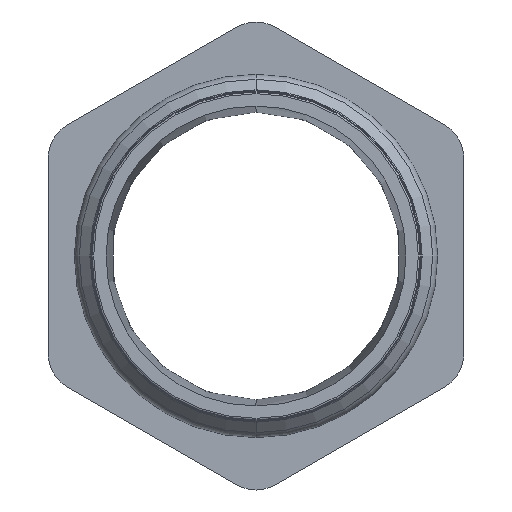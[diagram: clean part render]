
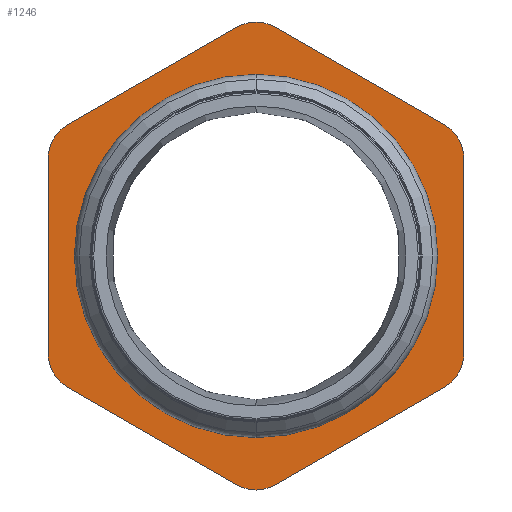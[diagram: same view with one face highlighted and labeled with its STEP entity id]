
A CAD part, left-side view. The second image highlights one B-rep face of the part: STEP entity #1246.
In plain terms, the highlighted planar face has unit normal (-1, 0, 0).
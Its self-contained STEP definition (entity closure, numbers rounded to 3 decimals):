
#137=DIRECTION('',(0.,-0.866,-0.5));
#138=VECTOR('',#137,40.598);
#139=CARTESIAN_POINT('',(58.933,-4.03,47.577));
#140=LINE('',#139,#138);
#144=CARTESIAN_POINT('',(58.933,-35.159,20.299));
#145=DIRECTION('',(1.,0.,0.));
#146=DIRECTION('',(0.,-0.5,0.866));
#147=AXIS2_PLACEMENT_3D('',#144,#145,#146);
#152=CARTESIAN_POINT('',(58.933,-35.159,-20.299));
#153=DIRECTION('',(1.,0.,0.));
#154=DIRECTION('',(0.,-1.,0.));
#155=AXIS2_PLACEMENT_3D('',#152,#153,#154);
#160=DIRECTION('',(0.,0.866,-0.5));
#161=VECTOR('',#160,40.598);
#162=CARTESIAN_POINT('',(58.933,-39.188,-27.278));
#163=LINE('',#162,#161);
#167=CARTESIAN_POINT('',(58.933,0.,-40.598));
#168=DIRECTION('',(1.,0.,0.));
#169=DIRECTION('',(0.,-0.5,-0.866));
#170=AXIS2_PLACEMENT_3D('',#167,#168,#169);
#175=CARTESIAN_POINT('',(58.933,0.,-40.598));
#176=DIRECTION('',(1.,0.,0.));
#177=DIRECTION('',(0.,0.,-1.));
#178=AXIS2_PLACEMENT_3D('',#175,#176,#177);
#183=DIRECTION('',(0.,0.866,0.5));
#184=VECTOR('',#183,40.598);
#185=CARTESIAN_POINT('',(58.933,4.03,-47.577));
#186=LINE('',#185,#184);
#190=CARTESIAN_POINT('',(58.933,35.159,-20.299));
#191=DIRECTION('',(1.,0.,0.));
#192=DIRECTION('',(0.,0.5,-0.866));
#193=AXIS2_PLACEMENT_3D('',#190,#191,#192);
#198=CARTESIAN_POINT('',(58.933,35.159,20.299));
#199=DIRECTION('',(1.,0.,0.));
#200=DIRECTION('',(0.,1.,0.));
#201=AXIS2_PLACEMENT_3D('',#198,#199,#200);
#206=DIRECTION('',(0.,-0.866,0.5));
#207=VECTOR('',#206,40.598);
#208=CARTESIAN_POINT('',(58.933,39.188,27.278));
#209=LINE('',#208,#207);
#213=CARTESIAN_POINT('',(58.933,0.,40.598));
#214=DIRECTION('',(1.,0.,0.));
#215=DIRECTION('',(0.,0.5,0.866));
#216=AXIS2_PLACEMENT_3D('',#213,#214,#215);
#221=CARTESIAN_POINT('',(58.933,0.,40.598));
#222=DIRECTION('',(1.,0.,0.));
#223=DIRECTION('',(0.,0.,1.));
#224=AXIS2_PLACEMENT_3D('',#221,#222,#223);
#229=CARTESIAN_POINT('',(58.933,0.,0.));
#230=DIRECTION('',(-1.,0.,0.));
#231=DIRECTION('',(0.,0.,-1.));
#232=AXIS2_PLACEMENT_3D('',#229,#230,#231);
#237=CARTESIAN_POINT('',(58.933,0.,0.));
#238=DIRECTION('',(-1.,0.,0.));
#239=DIRECTION('',(0.,0.,1.));
#240=AXIS2_PLACEMENT_3D('',#237,#238,#239);
#266=DIRECTION('',(0.,0.,1.));
#267=VECTOR('',#266,40.598);
#268=CARTESIAN_POINT('',(58.933,-43.218,-20.299));
#269=LINE('',#268,#267);
#315=DIRECTION('',(0.,0.,-1.));
#316=VECTOR('',#315,40.598);
#317=CARTESIAN_POINT('',(58.933,43.218,20.299));
#318=LINE('',#317,#316);
#1117=CARTESIAN_POINT('',(58.933,0.,-36.267));
#1118=CARTESIAN_POINT('',(58.933,0.,36.267));
#1119=VERTEX_POINT('',#1117);
#1120=VERTEX_POINT('',#1118);
#1121=CARTESIAN_POINT('',(58.933,-4.03,47.577));
#1122=CARTESIAN_POINT('',(58.933,-39.188,27.278));
#1123=VERTEX_POINT('',#1121);
#1124=VERTEX_POINT('',#1122);
#1125=CARTESIAN_POINT('',(58.933,-43.218,20.299));
#1126=VERTEX_POINT('',#1125);
#1127=CARTESIAN_POINT('',(58.933,-43.218,-20.299));
#1128=VERTEX_POINT('',#1127);
#1129=CARTESIAN_POINT('',(58.933,-39.188,-27.278));
#1130=VERTEX_POINT('',#1129);
#1131=CARTESIAN_POINT('',(58.933,-4.03,-47.577));
#1132=VERTEX_POINT('',#1131);
#1133=CARTESIAN_POINT('',(58.933,0.,-48.657));
#1134=CARTESIAN_POINT('',(58.933,4.03,-47.577));
#1135=VERTEX_POINT('',#1133);
#1136=VERTEX_POINT('',#1134);
#1137=CARTESIAN_POINT('',(58.933,39.188,-27.278));
#1138=VERTEX_POINT('',#1137);
#1139=CARTESIAN_POINT('',(58.933,43.218,-20.299));
#1140=VERTEX_POINT('',#1139);
#1141=CARTESIAN_POINT('',(58.933,43.218,20.299));
#1142=VERTEX_POINT('',#1141);
#1143=CARTESIAN_POINT('',(58.933,39.188,27.278));
#1144=VERTEX_POINT('',#1143);
#1145=CARTESIAN_POINT('',(58.933,4.03,47.577));
#1146=VERTEX_POINT('',#1145);
#1147=CARTESIAN_POINT('',(58.933,0.,48.657));
#1148=VERTEX_POINT('',#1147);
#1206=CARTESIAN_POINT('',(58.933,48.153,0.));
#1207=DIRECTION('',(1.,0.,0.));
#1208=DIRECTION('',(0.,0.,-1.));
#1209=AXIS2_PLACEMENT_3D('',#1206,#1207,#1208);
#1210=PLANE('',#1209);
#1212=ORIENTED_EDGE('',*,*,#1211,.T.);
#1214=ORIENTED_EDGE('',*,*,#1213,.T.);
#1216=ORIENTED_EDGE('',*,*,#1215,.F.);
#1218=ORIENTED_EDGE('',*,*,#1217,.T.);
#1220=ORIENTED_EDGE('',*,*,#1219,.T.);
#1222=ORIENTED_EDGE('',*,*,#1221,.T.);
#1224=ORIENTED_EDGE('',*,*,#1223,.T.);
#1226=ORIENTED_EDGE('',*,*,#1225,.T.);
#1228=ORIENTED_EDGE('',*,*,#1227,.T.);
#1230=ORIENTED_EDGE('',*,*,#1229,.F.);
#1232=ORIENTED_EDGE('',*,*,#1231,.T.);
#1233=ORIENTED_EDGE('',*,*,#1196,.T.);
#1235=ORIENTED_EDGE('',*,*,#1234,.T.);
#1237=ORIENTED_EDGE('',*,*,#1236,.T.);
#1238=EDGE_LOOP('',(#1212,#1214,#1216,#1218,#1220,#1222,#1224,#1226,#1228,#1230,
#1232,#1233,#1235,#1237));
#1239=FACE_OUTER_BOUND('',#1238,.F.);
#1241=ORIENTED_EDGE('',*,*,#1240,.T.);
#1243=ORIENTED_EDGE('',*,*,#1242,.T.);
#1244=EDGE_LOOP('',(#1241,#1243));
#1245=FACE_BOUND('',#1244,.F.);
#148=CIRCLE('',#147,8.059);
#156=CIRCLE('',#155,8.059);
#171=CIRCLE('',#170,8.059);
#179=CIRCLE('',#178,8.059);
#194=CIRCLE('',#193,8.059);
#202=CIRCLE('',#201,8.059);
#217=CIRCLE('',#216,8.059);
#225=CIRCLE('',#224,8.059);
#233=CIRCLE('',#232,36.267);
#241=CIRCLE('',#240,36.267);
#1196=EDGE_CURVE('',#1144,#1146,#209,.T.);
#1211=EDGE_CURVE('',#1123,#1124,#140,.T.);
#1213=EDGE_CURVE('',#1124,#1126,#148,.T.);
#1215=EDGE_CURVE('',#1128,#1126,#269,.T.);
#1217=EDGE_CURVE('',#1128,#1130,#156,.T.);
#1219=EDGE_CURVE('',#1130,#1132,#163,.T.);
#1221=EDGE_CURVE('',#1132,#1135,#171,.T.);
#1223=EDGE_CURVE('',#1135,#1136,#179,.T.);
#1225=EDGE_CURVE('',#1136,#1138,#186,.T.);
#1227=EDGE_CURVE('',#1138,#1140,#194,.T.);
#1229=EDGE_CURVE('',#1142,#1140,#318,.T.);
#1231=EDGE_CURVE('',#1142,#1144,#202,.T.);
#1234=EDGE_CURVE('',#1146,#1148,#217,.T.);
#1236=EDGE_CURVE('',#1148,#1123,#225,.T.);
#1240=EDGE_CURVE('',#1119,#1120,#233,.T.);
#1242=EDGE_CURVE('',#1120,#1119,#241,.T.);
#1246=ADVANCED_FACE('',(#1239,#1245),#1210,.F.);
